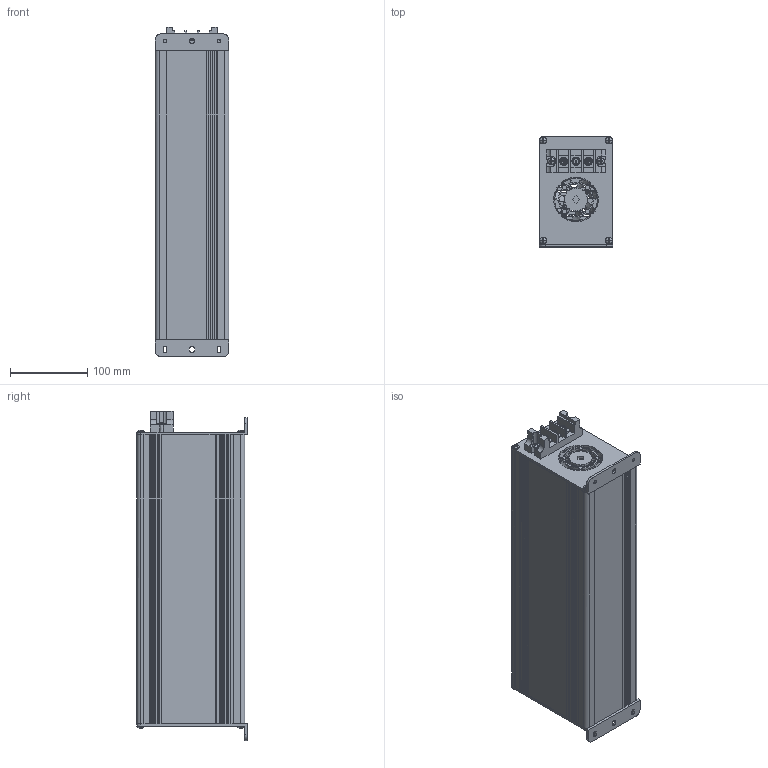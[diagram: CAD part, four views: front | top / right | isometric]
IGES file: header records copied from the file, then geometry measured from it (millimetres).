
Global section: file name: DV375; native system: Autodesk Inventor 2021; preprocessor: unknown; author: eunsol jang; date: 20220616.125622; units: inch
Bounding box: 95.5 x 142.98 x 427.5 mm (x, y, z)
Volume: 684452 mm3; surface area: 476702.9 mm2
Topology: 1 solids, 1 shells, 1132 faces, 3211 edges, 2096 vertices
Faces by surface type: bspline 1132
